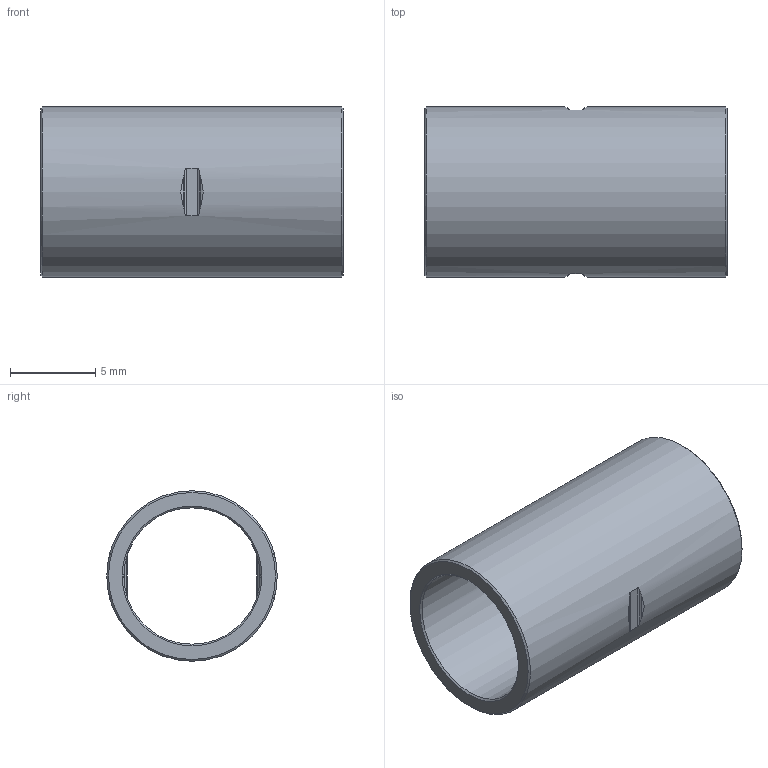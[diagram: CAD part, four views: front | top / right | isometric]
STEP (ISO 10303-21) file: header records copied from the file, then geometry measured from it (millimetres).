
FILE_DESCRIPTION((''),'2;1');
FILE_NAME('G:\SANHA-TERNAT\Technik\Management\Bouwmaten\z-maattekeningen 3D\imate 5000s\15270..._\152708.stp','2009-10-19T09:10:08',('vdvijverd'),(''),'Autodesk Inventor 2009','Autodesk Inventor 2009','');
FILE_SCHEMA(('AUTOMOTIVE_DESIGN { 1 0 10303 214 1 1 1 1 }'));
Length unit declared in the file: millimetre
Products named in the file (1): 152708
Bounding box: 17.75 x 10 x 10 mm (x, y, z)
Volume: 501.2 mm3; surface area: 1054.4 mm2
Topology: 1 solids, 1 shells, 36 faces, 96 edges, 64 vertices
Faces by surface type: bspline 14, cylinder 10, plane 8, cone 4
Full cylindrical faces by diameter (mm): 8 x1, 10 x1
Entity records: 1334 total; most frequent: CARTESIAN_POINT 523, ORIENTED_EDGE 176, DIRECTION 126, EDGE_CURVE 88, VERTEX_POINT 64, EDGE_LOOP 48, AXIS2_PLACEMENT_3D 47, FACE_OUTER_BOUND 36
